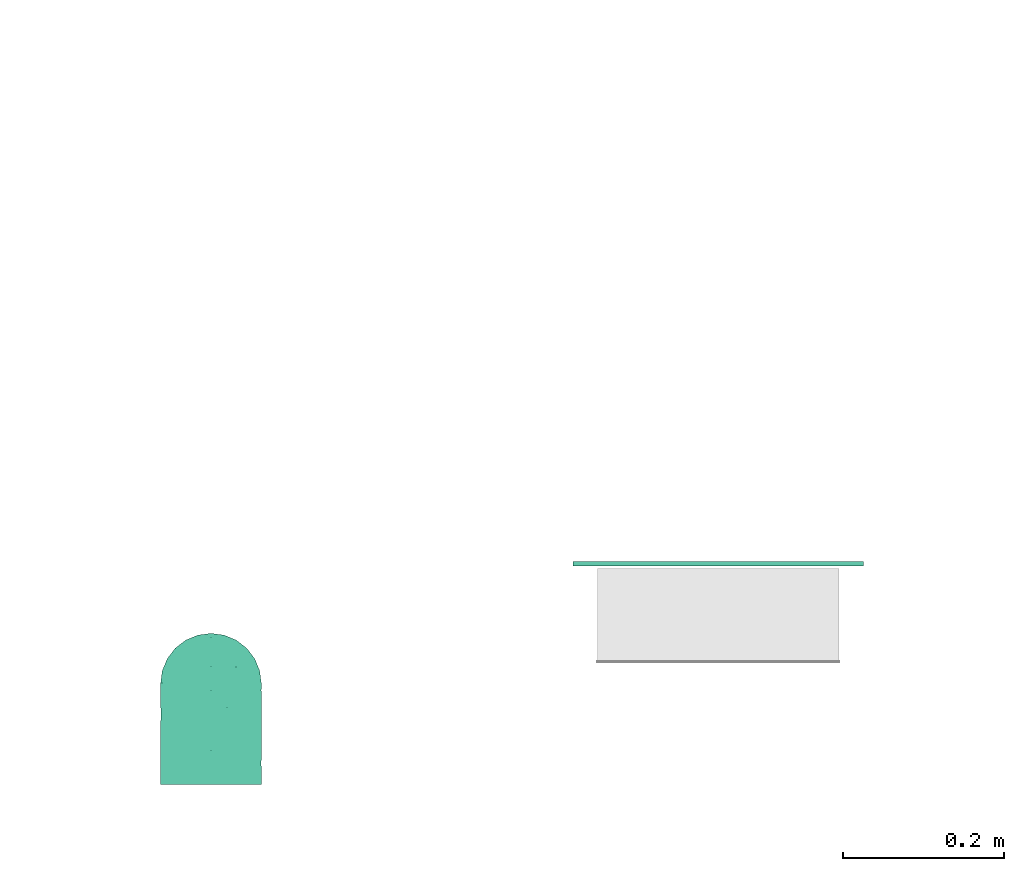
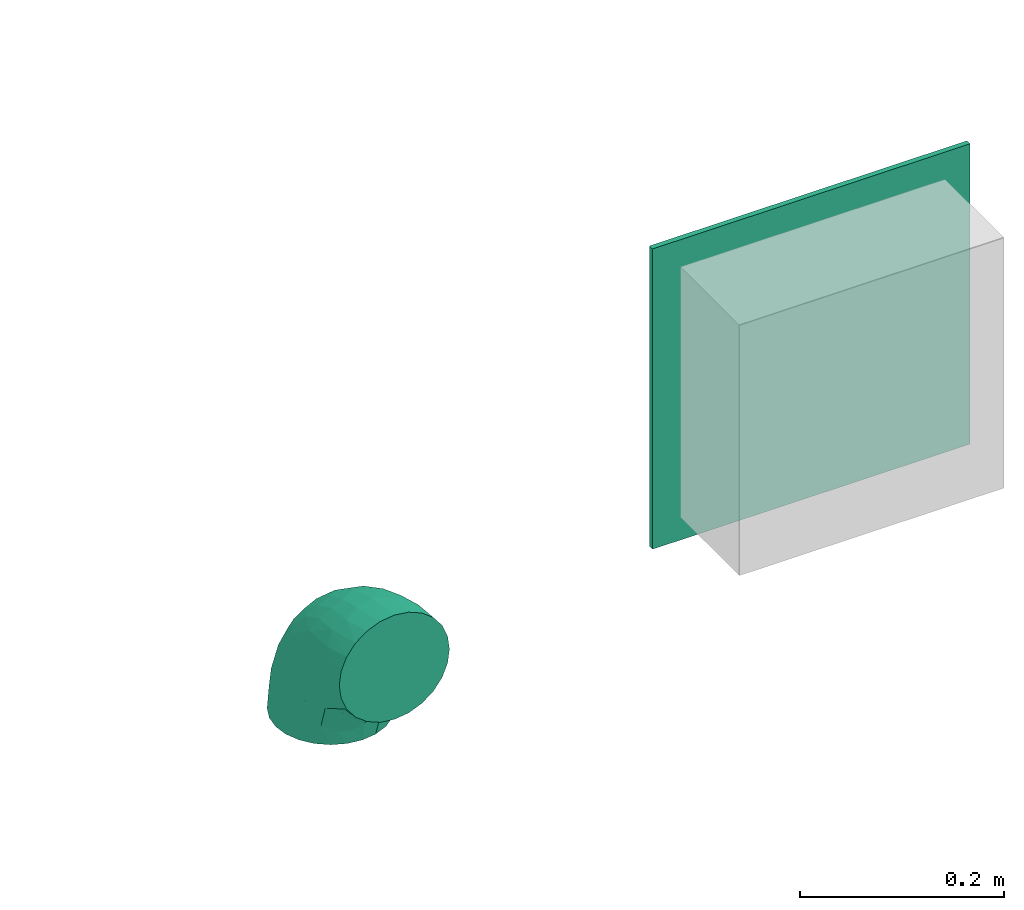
# One storey, part 55 of 63: 1 flow fitting, 1 flow terminal.
"""IFC2X3 building model written with IfcOpenShell, lengths in millimetres."""

import ifcopenshell
import ifcopenshell.guid

model = None  # the IFC model being written
_history = None  # IfcOwnerHistory: only IFC2X3 demands one
_inside = {}  # id of a spatial element -> (the spatial element, [elements in it])
_under = {}  # id of a project, library or spatial element -> (it, [spatial elements below it])
_declared = {}  # id of a project -> (the project, [libraries it declares])
_typed = {}  # id of a type object -> (the type object, [elements of that type])
_made_of = {}  # id of a material, layer set ... -> (it, [elements and type objects made of it])


def new_model(schema):
    """Start an empty IFC model of exactly this schema.

    Asked for "IFC4X3", IfcOpenShell would pick the latest addendum, in which some entities
    have other attributes; the version numbers below select the first issue.
    IFC2X3 requires an IfcOwnerHistory on every rooted entity: one is made here for all.
    """
    global model, _history
    if schema == "IFC4X3":
        model = ifcopenshell.file(schema_version=(4, 3, 0, 0))
    else:
        model = ifcopenshell.file(schema=schema)
    _inside.clear()
    _under.clear()
    _declared.clear()
    _typed.clear()
    _made_of.clear()
    _history = None
    if model.schema == "IFC2X3":
        org = make("IfcOrganization", Name="unknown")
        user = make(
            "IfcPersonAndOrganization",
            ThePerson=make("IfcPerson", FamilyName="unknown"),
            TheOrganization=org,
        )
        app = make(
            "IfcApplication",
            ApplicationDeveloper=org,
            Version="unknown",
            ApplicationFullName="unknown",
            ApplicationIdentifier="unknown",
        )
        _history = make(
            "IfcOwnerHistory",
            OwningUser=user,
            OwningApplication=app,
            ChangeAction="ADDED",
            CreationDate=0,
        )
    return model


def make(cls, **values):
    """One entity of the class cls with the attributes given. An attribute that is None is left unset."""
    return model.create_entity(
        cls, **{name: value for name, value in values.items() if value is not None}
    )


def entity(cls, *values):
    """Any entity or typed value of the class cls, its attributes in the order of the schema. None: left unset."""
    e = model.create_entity(cls)
    for i, value in enumerate(values):
        if value is not None:
            e[i] = value
    return e


def rooted(cls, **values):
    """An entity with a GlobalId (a new one), such as an element, a storey or a relation."""
    return make(cls, GlobalId=ifcopenshell.guid.new(), OwnerHistory=_history, **values)


def si_unit(unit_type, name, prefix=None):
    """IfcSIUnit, for example si_unit("LENGTHUNIT", "METRE", prefix="MILLI")."""
    return make("IfcSIUnit", UnitType=unit_type, Prefix=prefix, Name=name)


def converted_unit(unit_type, name, factor, base, dimensions=None, offset=None):
    """IfcConversionBasedUnit, such as the inch: factor (a typed value) times the base unit."""
    return make(
        "IfcConversionBasedUnit"
        if offset is None
        else "IfcConversionBasedUnitWithOffset",
        ConversionOffset=offset,
        Dimensions=None
        if dimensions is None
        else entity("IfcDimensionalExponents", *dimensions),
        UnitType=unit_type,
        Name=name,
        ConversionFactor=make(
            "IfcMeasureWithUnit", ValueComponent=factor, UnitComponent=base
        ),
    )


def derived_unit(unit_type, elements):
    """IfcDerivedUnit: a product of units, each with its exponent."""
    return make(
        "IfcDerivedUnit",
        Elements=[
            make("IfcDerivedUnitElement", Unit=unit, Exponent=power)
            for unit, power in elements
        ],
        UnitType=unit_type,
    )


def assignment(units):
    """IfcUnitAssignment: the units of a project."""
    return None if units is None else make("IfcUnitAssignment", Units=units)


def point(xyz):
    """IfcCartesianPoint."""
    return None if xyz is None else make("IfcCartesianPoint", Coordinates=xyz)


def direction(xyz):
    """IfcDirection."""
    return None if xyz is None else make("IfcDirection", DirectionRatios=xyz)


def frame(location, z_axis=None, x_axis=None):
    """IfcAxis2Placement3D, a coordinate frame: its origin and axes. An axis left out is left unset."""
    return make(
        "IfcAxis2Placement3D",
        Location=point(location),
        Axis=direction(z_axis),
        RefDirection=direction(x_axis),
    )


def origin_with_axes():
    """The frame at (0, 0, 0) with the z axis (0, 0, 1) and the x axis (1, 0, 0) written out."""
    return frame((0.0, 0.0, 0.0), z_axis=(0.0, 0.0, 1.0), x_axis=(1.0, 0.0, 0.0))


def place(relative_to, where):
    """IfcLocalPlacement: puts the frame where relative to a parent placement (None: the world)."""
    return make(
        "IfcLocalPlacement", PlacementRelTo=relative_to, RelativePlacement=where
    )


def context(
    kind, dimensions, precision=None, world=None, true_north=None, identifier=None
):
    """IfcGeometricRepresentationContext, for example the 3D "Model" context."""
    return make(
        "IfcGeometricRepresentationContext",
        ContextIdentifier=identifier,
        ContextType=kind,
        CoordinateSpaceDimension=dimensions,
        Precision=precision,
        WorldCoordinateSystem=world,
        TrueNorth=true_north,
    )


def subcontext(parent, identifier, kind, view, scale=None):
    """IfcGeometricRepresentationSubContext, for example "Body" below "Model"."""
    return make(
        "IfcGeometricRepresentationSubContext",
        ContextIdentifier=identifier,
        ContextType=kind,
        ParentContext=parent,
        TargetScale=scale,
        TargetView=view,
    )


def project(units=None, contexts=None):
    """IfcProject with its units and contexts."""
    return rooted(
        "IfcProject",
        Name="project",
        RepresentationContexts=contexts,
        UnitsInContext=assignment(units),
    )


def spatial(cls, under=None, at=None, **own):
    """A site, building, storey or space (cls), placed at a placement, below another one or the project."""
    s = rooted(cls, ObjectPlacement=at, **own)
    if under is not None:
        _under.setdefault(under.id(), (under, []))[1].append(s)
    return s


def faces_of(points, faces, orient=None, outer=None):
    """IfcFace entities. A face is a list of loops; a loop is a list of indices into points, from 0.

    orient and outer hold one flag for each loop. By default every Orientation is true, the
    first loop of a face is its IfcFaceOuterBound and the others are IfcFaceBound.
    """
    made = []
    for i, loops in enumerate(faces):
        bounds = []
        for j, loop in enumerate(loops):
            is_outer = j == 0 if outer is None else outer[i][j]
            bounds.append(
                make(
                    "IfcFaceOuterBound" if is_outer else "IfcFaceBound",
                    Bound=make("IfcPolyLoop", Polygon=[points[k] for k in loop]),
                    Orientation=True if orient is None else orient[i][j],
                )
            )
        made.append(make("IfcFace", Bounds=bounds))
    return made


def open_shell(faces, orient=None, outer=None):
    """The faces of one IfcOpenShell. surface_model builds it on its shared points."""
    return ("IfcOpenShell", faces, orient, outer)


def surface_model(cls, points, shells):
    """IfcFaceBasedSurfaceModel or IfcShellBasedSurfaceModel (cls): surfaces that need not close."""
    shared = [point(p) for p in points]
    made = [make(c, CfsFaces=faces_of(shared, fs, o, b)) for c, fs, o, b in shells]
    if cls == "IfcFaceBasedSurfaceModel":
        return make(cls, FbsmFaces=made)
    return make(cls, SbsmBoundary=made)


def shape(context_of_items, identifier, shape_type, items):
    """IfcShapeRepresentation: the items that make up one representation, for example the "Body"."""
    return make(
        "IfcShapeRepresentation",
        ContextOfItems=context_of_items,
        RepresentationIdentifier=identifier,
        RepresentationType=shape_type,
        Items=items,
    )


def source(mapping_origin, context_of_items, identifier, shape_type, items):
    """IfcRepresentationMap: a shape defined once, which mapped items show again and again."""
    return make(
        "IfcRepresentationMap",
        MappingOrigin=mapping_origin,
        MappedRepresentation=shape(context_of_items, identifier, shape_type, items),
    )


def transform(
    local_origin,
    x_axis=None,
    y_axis=None,
    z_axis=None,
    scale=None,
    scale2=None,
    scale3=None,
    uniform=True,
):
    """IfcCartesianTransformationOperator3D, or its non-uniform kind. x_axis, y_axis, z_axis: its Axis1, 2, 3."""
    if uniform:
        return make(
            "IfcCartesianTransformationOperator3D",
            Axis1=direction(x_axis),
            Axis2=direction(y_axis),
            LocalOrigin=point(local_origin),
            Scale=scale,
            Axis3=direction(z_axis),
        )
    return make(
        "IfcCartesianTransformationOperator3DnonUniform",
        Axis1=direction(x_axis),
        Axis2=direction(y_axis),
        LocalOrigin=point(local_origin),
        Scale=scale,
        Axis3=direction(z_axis),
        Scale2=scale2,
        Scale3=scale3,
    )


def mapped(mapping_source, mapping_target):
    """IfcMappedItem: shows the shape of a source again, moved by a transform."""
    return make(
        "IfcMappedItem", MappingSource=mapping_source, MappingTarget=mapping_target
    )


def made_of(thing, what):
    """Note that an element or type object is made of a material, layer set ...; save() writes the relation."""
    if what is not None:
        _made_of.setdefault(what.id(), (what, []))[1].append(thing)
    return thing


def type_object(cls, material=None, **own):
    """A type object (cls), such as IfcWallType, which elements share."""
    return made_of(rooted(cls, **own), material)


def element(
    cls,
    number,
    at=None,
    inside=None,
    cuts=None,
    type_object=None,
    material=None,
    context=None,
    identifier="Body",
    shape_type=None,
    held_by="IfcProductDefinitionShape",
    body=None,
    shapes=None,
    **own,
):
    """One element of the class cls, such as IfcWall. Its Tag is "e" and its number.

    at: its placement. inside: the storey or other place that contains it. cuts: it is an
    opening in that element (IfcRelVoidsElement). A single representation is given by context,
    identifier, shape_type and body (its items); several are given by shapes. held_by: the class
    of the entity that holds the representations. save() writes the other relations.
    """
    e = rooted(cls, Tag="e%d" % number, ObjectPlacement=at, **own)
    if body is not None:
        shapes = [shape(context, identifier, shape_type, body)]
    if shapes is not None:
        e.Representation = make(held_by, Representations=shapes)
    if inside is not None:
        _inside.setdefault(inside.id(), (inside, []))[1].append(e)
    if cuts is not None:
        rooted(
            "IfcRelVoidsElement", RelatingBuildingElement=cuts, RelatedOpeningElement=e
        )
    if type_object is not None:
        _typed.setdefault(type_object.id(), (type_object, []))[1].append(e)
    return made_of(e, material)


def aggregate(whole, parts):
    """IfcRelAggregates: a whole, such as a stair, and the parts it consists of."""
    return rooted("IfcRelAggregates", RelatingObject=whole, RelatedObjects=parts)


def save(model, path):
    """Write the relations noted so far, then the file.

    IfcRelAggregates (storeys below a building ...), IfcRelContainedInSpatialStructure (elements
    in a storey), IfcRelDefinesByType, IfcRelAssociatesMaterial and IfcRelDeclares: one each for
    every whole, place, type object, material and project.
    """
    for whole, parts in _under.values():
        aggregate(whole, parts)
    for where, things in _inside.values():
        rooted(
            "IfcRelContainedInSpatialStructure",
            RelatedElements=things,
            RelatingStructure=where,
        )
    for kind, things in _typed.values():
        rooted("IfcRelDefinesByType", RelatedObjects=things, RelatingType=kind)
    for what, things in _made_of.values():
        rooted("IfcRelAssociatesMaterial", RelatedObjects=things, RelatingMaterial=what)
    for by, libraries in _declared.values():
        rooted("IfcRelDeclares", RelatingContext=by, RelatedDefinitions=libraries)
    model.write(path)


model = new_model("IFC2X3")

# Units and contexts
model_context = context("Model", 3, precision=0.01, world=frame((0.0, 4.29681676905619e-09, 0.0)), true_north=direction((4.01073788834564e-13, 1.0)))
plan_context = context("Plan", 3, precision=0.01, world=frame((0.0, 4.29681676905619e-09, 0.0)), true_north=direction((4.01073788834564e-13, 1.0)))
body_context = subcontext(model_context, "Body", "Model", "MODEL_VIEW")
ifc_project = project(units=[converted_unit("PLANEANGLEUNIT", "DEGREE", entity("IfcPositiveLengthMeasure", 0.0174532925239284), si_unit("PLANEANGLEUNIT", "RADIAN"), dimensions=[0, 0, 0, 0, 0, 0, 0]), si_unit("AREAUNIT", "SQUARE_METRE"), si_unit("LENGTHUNIT", "METRE", prefix="MILLI"), si_unit("MASSUNIT", "GRAM", prefix="KILO"), si_unit("POWERUNIT", "WATT"), si_unit("PRESSUREUNIT", "PASCAL"), si_unit("FORCEUNIT", "NEWTON", prefix="KILO"), si_unit("ELECTRICVOLTAGEUNIT", "VOLT"), si_unit("ELECTRICCURRENTUNIT", "AMPERE"), si_unit("THERMODYNAMICTEMPERATUREUNIT", "DEGREE_CELSIUS"), si_unit("TIMEUNIT", "SECOND"), si_unit("VOLUMEUNIT", "CUBIC_METRE"), derived_unit("LINEARVELOCITYUNIT", [(si_unit("LENGTHUNIT", "METRE"), 1), (si_unit("TIMEUNIT", "SECOND"), -1)]), derived_unit("VOLUMETRICFLOWRATEUNIT", [(si_unit("VOLUMEUNIT", "CUBIC_METRE"), 1), (si_unit("TIMEUNIT", "SECOND"), -1)]), derived_unit("THERMALTRANSMITTANCEUNIT", [(si_unit("POWERUNIT", "WATT"), 1), (si_unit("THERMODYNAMICTEMPERATUREUNIT", "KELVIN"), -1), (si_unit("AREAUNIT", "SQUARE_METRE"), -1)]), derived_unit("SOUNDPRESSUREUNIT", [(si_unit("PRESSUREUNIT", "PASCAL"), 1)])], contexts=[model_context, plan_context])

# Site, building, storey
site_placement = place(None, frame((0.0, -4.29681676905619e-09, 0.0), z_axis=(0.0, 0.0, 1.0), x_axis=(1.0, 0.0, 0.0)))
site = spatial("IfcSite", under=ifc_project, at=site_placement, CompositionType="ELEMENT")
building_placement = place(site_placement, frame((0.0, 4.29681676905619e-09, 0.0), z_axis=(0.0, 0.0, 1.0), x_axis=(1.0, 0.0, 0.0)))
building = spatial("IfcBuilding", under=site, at=building_placement, Name="mc-building", CompositionType="ELEMENT")
storey_placement = place(building_placement, frame((0.0, 0.0, 210900.0), z_axis=(0.0, 0.0, 1.0), x_axis=(1.0, 0.0, 0.0)))
storey = spatial("IfcBuildingStorey", under=building, at=storey_placement, Name="Nivå F", CompositionType="ELEMENT", Elevation=210900.0)

# Flow fitting
duct_fitting_type = type_object("IfcDuctFittingType", Name="magicirc_elbow_full_radius_001", PredefinedType="BEND")
shared_shape_1 = source(origin_with_axes(), body_context, "Body", "SurfaceModel", [
    surface_model("IfcShellBasedSurfaceModel", [(-124.9777, 0.0, -62.5), (-124.9777, -44.19417, -44.19417), (-124.9777, 16.17619, -60.37037), (-124.9777, 31.25, -54.12659), (-124.9777, 44.19417, -44.19417), (-124.9777, 54.12659, -31.25), (-124.9777, -62.5, 0.0), (-124.9777, -60.37037, 16.17619), (-124.9777, -31.25, -54.12659), (-124.9777, -16.17619, -60.37037), (-124.9777, -54.12659, -31.25), (-124.9777, -60.37037, -16.17619), (-124.9777, 60.37037, -16.17619), (-124.9777, 54.12659, 31.25), (-124.9777, 60.37037, 16.17619), (-124.9777, 62.5, 0.0), (-124.9777, 44.19417, 44.19417), (-124.9777, 16.17619, 60.37037), (-124.9777, 31.25, 54.12659), (-124.9777, -31.25, 54.12659), (-124.9777, -54.12659, 31.25), (-124.9777, -44.19417, 44.19417), (-124.9777, -16.17619, 60.37037), (-124.9777, 0.0, 62.5), (-16.15389, 124.98059, -60.37037), (44.21647, 124.96982, -44.19417), (0.0223, 124.9777, -62.5), (-44.17188, 124.98559, -44.19417), (-31.2277, 124.98328, -54.12659), (44.21647, 124.96982, 44.19417), (-54.10429, 124.98736, -31.25), (16.19849, 124.97481, -60.37037), (31.2723, 124.97212, -54.12659), (60.39266, 124.96693, -16.17619), (54.14888, 124.96804, -31.25), (62.5223, 124.96655, 0.0), (-60.34807, 124.98847, -16.17619), (-62.4777, 124.98885, 0.0), (-60.34807, 124.98847, 16.17619), (-54.10429, 124.98736, 31.25), (-44.17188, 124.98559, 44.19417), (-31.2277, 124.98328, 54.12659), (-16.15389, 124.98059, 60.37037), (60.39266, 124.96693, 16.17619), (54.14888, 124.96804, 31.25), (31.2723, 124.97212, 54.12659), (0.0223, 124.9777, 62.5), (16.19849, 124.97481, 60.37037), (-91.99207, -48.59634, 35.11568), (-82.28856, -36.1004, 46.59032), (-83.25969, -57.80005, 0.0), (21.60378, 8.08072, 0.0), (6.69987, -6.70107, 12.50206), (-8.08457, -21.60234, 0.0), (-85.15917, -54.95312, 19.7248), (-63.84867, 108.10008, 10.69648), (-72.63457, 88.15944, 13.64668), (-58.8393, 108.4693, 26.01802), (28.69954, 50.90743, 42.73575), (15.26137, 48.28602, 51.88184), (13.34437, 22.13948, 40.76544), (-28.56755, -33.18791, 16.61136), (-55.78612, -40.00094, 31.60312), (-55.91169, -46.21146, 18.76298), (-43.63311, -43.93581, 0.0), (-11.15395, 11.15594, 51.10086), (-91.89341, -23.63977, 56.23347), (-48.28874, -15.25276, 51.88184), (-62.20912, -0.56259, 60.57872), (-86.03465, 71.08972, 22.01258), (-76.27981, 73.71377, 30.98826), (-95.46152, -8.27961, 61.43124), (-21.71039, 61.45234, 62.38762), (-46.28105, 46.28931, 60.98085), (-37.20533, 27.30678, 62.17847), (-96.32275, 24.51244, 59.04004), (-23.31095, 107.79334, 58.5422), (-8.54933, 93.47224, 62.34645), (-87.50082, 9.58032, 62.39343), (-90.82433, 62.14503, 32.36822), (-104.63628, 61.64777, 22.10025), (-108.65669, 63.76109, 10.4304), (-88.79198, 72.98338, 10.36284), (36.11508, 82.28212, 46.59032), (-22.14186, -13.34042, 40.76544), (-97.68178, 52.10114, 41.01625), (33.19301, 28.56163, 16.61136), (43.94359, 43.62527, 0.0), (-108.11471, 37.8488, 50.92607), (-16.30267, 41.84604, 61.36851), (-31.03978, 11.46472, 58.36384), (-6.36982, 33.75787, 57.43679), (23.65617, 91.88919, 56.23347), (8.29664, 95.46004, 61.43124), (40.01089, 55.77898, 31.60312), (47.32502, 55.31043, 14.21293), (57.8149, 83.24937, 0.0), (54.96832, 85.14936, 19.7248), (48.61275, 91.98339, 35.11568), (-51.06921, 80.05024, 49.23728), (-51.33105, 100.67936, 40.68851), (-65.86803, 69.79106, 44.27072), (-67.23843, 101.07456, 0.0), (-66.73369, 56.07928, 51.93914), (-47.25701, 67.5562, 55.6979), (-80.78747, 80.80188, 0.0), (-101.06256, 67.25646, 0.0), (-27.01404, 84.67691, 59.52214), (-39.47821, 96.78422, 51.8044), (-4.6803, 4.68113, 43.2262), (2.92399, -2.92451, 27.96136), (-68.66266, 26.76906, 61.38145), (-61.31449, 15.31418, 62.47342), (-66.43136, 42.40273, 57.80845), (-86.04942, 42.42441, 52.63067), (-36.39192, 64.86936, 59.87172), (0.57369, 62.20902, 60.57872), (-50.91122, -28.66753, 42.75716), (-64.4899, 88.50007, 30.85479), (-27.40586, -26.1623, 29.83822), (22.74828, 21.42194, 28.89416), (-90.72141, 40.979, -52.27072), (-51.04756, -15.77994, -52.43537), (-54.25593, -0.78305, -59.44493), (-25.1066, -1.05306, -51.21579), (-98.92338, 7.90271, -62.29652), (-67.14318, 94.51971, -18.73765), (-96.15025, 24.5399, -59.04735), (-57.86761, 72.63547, -48.12504), (-44.49564, 76.41426, -54.27604), (-57.74788, 57.75818, -54.87614), (-107.26048, 64.03092, -11.08665), (-59.58771, -46.86028, -20.96215), (-91.1565, -55.95169, -20.37599), (-87.68669, 72.35907, -15.72729), (37.35583, 90.39314, -47.18876), (21.58351, 79.1262, -55.58639), (24.65807, 105.53069, -56.88227), (-98.79721, 51.80607, -40.89368), (-75.35981, 57.27038, -47.13753), (-29.54916, -32.62226, -19.86502), (2.63952, 29.34272, -52.1231), (-22.05283, 22.05676, -59.01775), (-105.2036, -49.75343, -36.31297), (-39.2112, 98.10509, -51.70255), (-25.49673, 90.9159, -59.2667), (7.06712, 14.52689, -41.01084), (25.50492, 46.64358, -43.72269), (21.00158, 20.87677, -30.93249), (-90.3998, -37.3397, -47.18876), (-47.38265, -35.90554, -32.08115), (-105.53508, -24.63924, -56.88227), (0.79273, 54.25579, -59.44493), (12.92843, 53.33701, -54.60041), (7.89664, 92.05969, -61.35734), (-79.13005, -21.56939, -55.58639), (-92.0611, -7.88022, -61.35734), (-78.50958, -46.34886, -33.85285), (-68.18998, -28.54127, -49.07208), (46.36287, 78.5013, -33.85285), (46.8709, 59.57935, -20.96215), (35.91399, 47.37624, -32.08115), (-75.93025, 74.30912, -30.65678), (-100.90764, 60.72257, -27.0073), (2.92698, -2.9275, -27.95291), (6.70063, -6.70182, -12.49683), (32.62753, 29.54334, -19.86502), (-54.04997, 91.47942, -41.70527), (-58.7302, 101.54832, -30.19158), (-7.88506, 98.92478, -62.29652), (49.7722, 105.19472, -36.31297), (-14.76112, 68.83984, -62.48647), (-33.78308, 36.46147, -62.46456), (-36.9697, 59.23683, -60.63964), (55.96795, 91.14652, -20.37599), (-61.70094, 36.16425, -60.43516), (-23.33364, -23.18932, -30.23759), (-68.8372, 14.7734, -62.48647), (-16.59763, -10.65867, -39.2527), (-46.64813, -25.4966, -43.72269), (-69.68498, 70.77872, -40.55204)], [open_shell([[[0, 1, 2]], [[3, 2, 4]], [[5, 4, 6]], [[1, 4, 2]], [[5, 6, 7]], [[8, 1, 9]], [[1, 0, 9]], [[10, 11, 1]], [[6, 1, 11]], [[1, 6, 4]], [[7, 12, 5]], [[13, 14, 15]], [[16, 13, 15]], [[17, 18, 16]], [[19, 16, 15]], [[17, 16, 19]], [[20, 21, 7]], [[19, 7, 21]], [[22, 23, 19]], [[15, 7, 19]], [[19, 23, 17]], [[12, 7, 15]], [[24, 25, 26]], [[27, 24, 28]], [[29, 27, 30]], [[25, 24, 27]], [[29, 25, 27]], [[31, 25, 32]], [[31, 26, 25]], [[25, 33, 34]], [[33, 25, 35]], [[25, 29, 35]], [[36, 29, 30]], [[37, 38, 39]], [[37, 39, 40]], [[37, 41, 29]], [[41, 37, 40]], [[29, 41, 42]], [[43, 29, 44]], [[35, 29, 43]], [[45, 46, 47]], [[46, 45, 29]], [[42, 46, 29]], [[29, 36, 37]], [[21, 48, 49]], [[7, 6, 50]], [[51, 52, 53]], [[54, 20, 7]], [[50, 54, 7]], [[55, 56, 57]], [[20, 48, 21]], [[58, 59, 60]], [[61, 62, 63]], [[61, 63, 64]], [[21, 49, 19]], [[61, 64, 53]], [[65, 60, 59]], [[66, 67, 68]], [[56, 69, 70]], [[71, 23, 22]], [[72, 73, 74]], [[18, 17, 75]], [[66, 19, 49]], [[42, 76, 77]], [[23, 78, 17]], [[13, 79, 80]], [[81, 15, 14]], [[69, 82, 81]], [[83, 29, 45]], [[65, 67, 84]], [[16, 85, 13]], [[86, 51, 87]], [[16, 18, 88]], [[89, 90, 91]], [[83, 45, 92]], [[69, 81, 80]], [[93, 47, 46]], [[94, 86, 95]], [[96, 97, 95]], [[96, 43, 97]], [[98, 97, 44]], [[46, 42, 77]], [[63, 50, 64]], [[43, 44, 97]], [[83, 94, 98]], [[44, 29, 98]], [[99, 100, 101]], [[55, 102, 56]], [[38, 57, 39]], [[43, 96, 35]], [[48, 54, 62]], [[79, 70, 69]], [[99, 103, 104]], [[37, 102, 55]], [[23, 71, 78]], [[56, 105, 82]], [[16, 88, 85]], [[102, 105, 56]], [[92, 45, 47]], [[57, 100, 39]], [[82, 105, 106]], [[107, 108, 104]], [[109, 110, 60]], [[107, 72, 77]], [[19, 66, 22]], [[108, 107, 76]], [[76, 42, 41]], [[41, 40, 108]], [[83, 92, 59]], [[95, 86, 87]], [[111, 112, 74]], [[75, 17, 78]], [[113, 75, 111]], [[103, 85, 114]], [[80, 79, 69]], [[100, 40, 39]], [[115, 104, 73]], [[107, 115, 72]], [[93, 77, 116]], [[67, 66, 49]], [[71, 66, 68]], [[67, 117, 84]], [[67, 65, 90]], [[93, 92, 47]], [[116, 91, 59]], [[116, 59, 92]], [[109, 60, 65]], [[54, 48, 20]], [[49, 48, 62]], [[83, 98, 29]], [[97, 98, 94]], [[111, 75, 78]], [[88, 75, 114]], [[81, 82, 106]], [[56, 82, 69]], [[15, 81, 106]], [[81, 14, 80]], [[14, 13, 80]], [[79, 13, 85]], [[85, 101, 79]], [[70, 101, 118]], [[108, 99, 104]], [[113, 103, 114]], [[111, 74, 73]], [[116, 77, 72]], [[90, 74, 68]], [[72, 74, 89]], [[77, 93, 46]], [[92, 93, 116]], [[66, 71, 22]], [[78, 71, 68]], [[101, 100, 118]], [[108, 40, 100]], [[52, 61, 53]], [[119, 110, 84]], [[94, 58, 120]], [[86, 120, 52]], [[117, 67, 49]], [[61, 119, 62]], [[120, 60, 110]], [[83, 58, 94]], [[111, 78, 112]], [[113, 111, 73]], [[104, 113, 73]], [[75, 113, 114]], [[104, 103, 113]], [[85, 103, 101]], [[78, 68, 112]], [[68, 74, 112]], [[101, 70, 79]], [[56, 70, 118]], [[67, 90, 68]], [[91, 90, 65]], [[59, 91, 65]], [[89, 91, 116]], [[72, 89, 116]], [[90, 89, 74]], [[57, 56, 118]], [[37, 55, 38]], [[86, 52, 51]], [[61, 52, 110]], [[75, 88, 18]], [[85, 88, 114]], [[108, 76, 41]], [[77, 76, 107]], [[55, 57, 38]], [[100, 57, 118]], [[72, 115, 73]], [[107, 104, 115]], [[100, 99, 108]], [[103, 99, 101]], [[62, 54, 63]], [[63, 54, 50]], [[96, 95, 87]], [[94, 95, 97]], [[49, 62, 117]], [[119, 117, 62]], [[110, 119, 61]], [[117, 119, 84]], [[65, 84, 109]], [[110, 109, 84]], [[52, 120, 110]], [[94, 120, 86]], [[59, 58, 83]], [[120, 58, 60]], [[4, 121, 3]], [[122, 123, 124]], [[0, 2, 125]], [[126, 102, 37]], [[3, 127, 2]], [[128, 129, 130]], [[106, 131, 15]], [[132, 50, 133]], [[106, 134, 131]], [[135, 136, 137]], [[138, 139, 121]], [[64, 140, 53]], [[141, 124, 142]], [[121, 4, 138]], [[133, 10, 143]], [[144, 28, 145]], [[50, 6, 11]], [[146, 147, 148]], [[149, 1, 8]], [[140, 132, 150]], [[151, 149, 8]], [[141, 152, 153]], [[31, 154, 26]], [[133, 11, 10]], [[143, 10, 1]], [[155, 156, 123]], [[157, 149, 158]], [[8, 9, 151]], [[156, 9, 0]], [[159, 160, 161]], [[105, 134, 106]], [[64, 50, 132]], [[126, 162, 134]], [[138, 163, 162]], [[36, 126, 37]], [[140, 164, 165]], [[166, 87, 51]], [[167, 168, 30]], [[162, 126, 168]], [[32, 25, 135]], [[154, 31, 137]], [[24, 169, 145]], [[127, 3, 121]], [[169, 24, 26]], [[25, 34, 170]], [[28, 144, 27]], [[24, 145, 28]], [[31, 32, 137]], [[87, 166, 160]], [[165, 166, 51]], [[171, 172, 173]], [[142, 152, 141]], [[165, 51, 53]], [[156, 155, 151]], [[136, 135, 147]], [[34, 33, 174]], [[35, 96, 33]], [[175, 127, 121]], [[4, 5, 138]], [[174, 159, 170]], [[176, 140, 150]], [[171, 154, 152]], [[126, 105, 102]], [[30, 27, 167]], [[173, 145, 171]], [[131, 163, 12]], [[128, 144, 129]], [[139, 128, 130]], [[174, 160, 159]], [[170, 135, 25]], [[147, 135, 159]], [[152, 154, 136]], [[169, 154, 171]], [[153, 147, 141]], [[152, 142, 172]], [[33, 96, 174]], [[160, 96, 87]], [[155, 122, 158]], [[143, 149, 157]], [[125, 156, 0]], [[177, 172, 123]], [[177, 123, 156]], [[123, 142, 124]], [[133, 157, 132]], [[50, 11, 133]], [[126, 134, 105]], [[168, 36, 30]], [[163, 5, 12]], [[121, 139, 130]], [[175, 121, 130]], [[125, 127, 177]], [[145, 173, 129]], [[167, 27, 144]], [[147, 146, 141]], [[178, 124, 146]], [[124, 141, 146]], [[124, 179, 122]], [[162, 163, 134]], [[138, 5, 163]], [[127, 125, 2]], [[156, 125, 177]], [[154, 169, 26]], [[145, 169, 171]], [[147, 161, 148]], [[146, 164, 178]], [[176, 164, 140]], [[124, 178, 179]], [[171, 152, 172]], [[175, 130, 173]], [[123, 172, 142]], [[175, 172, 177]], [[172, 175, 173]], [[127, 175, 177]], [[162, 180, 138]], [[180, 167, 128]], [[160, 174, 96]], [[161, 160, 166]], [[161, 166, 148]], [[147, 159, 161]], [[166, 164, 148]], [[164, 146, 148]], [[150, 132, 157]], [[64, 132, 140]], [[157, 179, 150]], [[176, 179, 178]], [[180, 128, 139]], [[144, 128, 167]], [[145, 129, 144]], [[173, 130, 129]], [[138, 180, 139]], [[167, 180, 162]], [[179, 176, 150]], [[164, 176, 178]], [[140, 165, 53]], [[166, 165, 164]], [[163, 131, 134]], [[15, 131, 12]], [[135, 137, 32]], [[154, 137, 136]], [[174, 170, 34]], [[135, 170, 159]], [[156, 151, 9]], [[149, 151, 155]], [[149, 143, 1]], [[133, 143, 157]], [[162, 168, 167]], [[36, 168, 126]], [[152, 136, 153]], [[147, 153, 136]], [[158, 122, 179]], [[123, 122, 155]], [[157, 158, 179]], [[155, 158, 149]]])]),
])
flow_fitting_placement = place(storey_placement, frame((533512.2583, 440892.23241, 2163.0), z_axis=(-1.0, 0.0, 0.0), x_axis=(0.0, 1.0, 0.0)))
element("IfcFlowFitting", 1, at=flow_fitting_placement, inside=storey, type_object=duct_fitting_type, Name="magicirc_elbow_full_radius_001", context=body_context, shape_type="MappedRepresentation", body=[
    mapped(shared_shape_1, transform((0.0, 0.0, 0.0), scale=1.0)),
])

# Flow terminal
air_terminal_type = type_object("IfcAirTerminalType", Name="BRTR-300-300", PredefinedType="NOTDEFINED")
shared_shape_2 = source(origin_with_axes(), body_context, "Body", "SurfaceModel", [
    surface_model("IfcShellBasedSurfaceModel", [(0.0, -180.0, 180.0), (6.0, -180.0, 180.0), (6.0, 180.0, 180.0), (0.0, 180.0, 180.0), (0.0, 180.0, -180.0), (6.0, 180.0, -180.0), (6.0, -180.0, -180.0), (0.0, -180.0, -180.0)], [open_shell([[[0, 1, 2]], [[2, 3, 0]], [[4, 5, 6]], [[6, 7, 4]], [[2, 1, 6]], [[6, 5, 2]], [[3, 2, 5]], [[5, 4, 3]], [[0, 3, 4]], [[4, 7, 0]], [[1, 0, 7]], [[7, 6, 1]]])]),
])
flow_terminal_placement = place(storey_placement, frame((534141.14447, 441038.04537, 2163.0), z_axis=(0.0, 0.0, 1.0), x_axis=(0.0, 1.0, 0.0)))
element("IfcFlowTerminal", 2, at=flow_terminal_placement, inside=storey, type_object=air_terminal_type, Name="BRTR-300-300", context=body_context, shape_type="MappedRepresentation", body=[
    mapped(shared_shape_2, transform((0.0, 0.0, 0.0), scale=1.0)),
])

save(model, "model.ifc")
